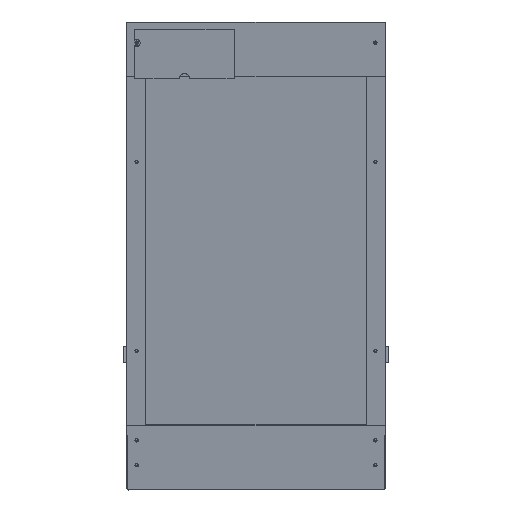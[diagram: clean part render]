
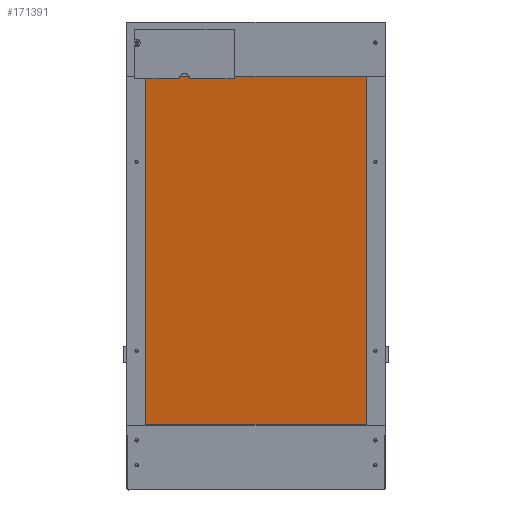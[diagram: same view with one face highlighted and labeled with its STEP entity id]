
A CAD part, top view. The second image highlights one B-rep face of the part: STEP entity #171391.
In plain terms, the highlighted planar face has unit normal (0, -0.174, 0.985).
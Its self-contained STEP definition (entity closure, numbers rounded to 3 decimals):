
#171222 = PLANE('',#171223);
#171223 = AXIS2_PLACEMENT_3D('',#171224,#171225,#171226);
#171224 = CARTESIAN_POINT('',(18.1,64.,86.285));
#171225 = DIRECTION('',(-0.,1.,0.));
#171226 = DIRECTION('',(0.,0.,-1.));
#171250 = PLANE('',#171251);
#171251 = AXIS2_PLACEMENT_3D('',#171252,#171253,#171254);
#171252 = CARTESIAN_POINT('',(241.9,240.675,111.437));
#171253 = DIRECTION('',(1.,0.,0.));
#171254 = DIRECTION('',(-0.,0.,1.));
#171278 = PLANE('',#171279);
#171279 = AXIS2_PLACEMENT_3D('',#171280,#171281,#171282);
#171280 = CARTESIAN_POINT('',(18.1,417.349,136.59));
#171281 = DIRECTION('',(0.,-1.,0.));
#171282 = DIRECTION('',(0.,0.,1.));
#171304 = PLANE('',#171305);
#171305 = AXIS2_PLACEMENT_3D('',#171306,#171307,#171308);
#171306 = CARTESIAN_POINT('',(18.1,240.675,111.437));
#171307 = DIRECTION('',(1.,0.,0.));
#171308 = DIRECTION('',(-0.,0.,1.));
#171321 = VERTEX_POINT('',#171322);
#171322 = CARTESIAN_POINT('',(241.9,417.349,148.59));
#171343 = EDGE_CURVE('',#171344,#171321,#171346,.T.);
#171344 = VERTEX_POINT('',#171345);
#171345 = CARTESIAN_POINT('',(18.1,417.349,148.59));
#171346 = SURFACE_CURVE('',#171347,(#171351,#171358),.PCURVE_S1.);
#171347 = LINE('',#171348,#171349);
#171348 = CARTESIAN_POINT('',(18.1,417.349,148.59));
#171349 = VECTOR('',#171350,1.);
#171350 = DIRECTION('',(1.,0.,0.));
#171351 = PCURVE('',#171278,#171352);
#171352 = DEFINITIONAL_REPRESENTATION('',(#171353),#171357);
#171353 = LINE('',#171354,#171355);
#171354 = CARTESIAN_POINT('',(12.,0.));
#171355 = VECTOR('',#171356,1.);
#171356 = DIRECTION('',(0.,-1.));
#171357 = ( GEOMETRIC_REPRESENTATION_CONTEXT(2) 
PARAMETRIC_REPRESENTATION_CONTEXT() REPRESENTATION_CONTEXT('2D SPACE',''
  ) );
#171358 = PCURVE('',#171359,#171364);
#171359 = PLANE('',#171360);
#171360 = AXIS2_PLACEMENT_3D('',#171361,#171362,#171363);
#171361 = CARTESIAN_POINT('',(18.1,417.349,148.59));
#171362 = DIRECTION('',(0.,0.174,-0.985));
#171363 = DIRECTION('',(0.,-0.985,-0.174));
#171364 = DEFINITIONAL_REPRESENTATION('',(#171365),#171369);
#171365 = LINE('',#171366,#171367);
#171366 = CARTESIAN_POINT('',(0.,0.));
#171367 = VECTOR('',#171368,1.);
#171368 = DIRECTION('',(0.,-1.));
#171369 = ( GEOMETRIC_REPRESENTATION_CONTEXT(2) 
PARAMETRIC_REPRESENTATION_CONTEXT() REPRESENTATION_CONTEXT('2D SPACE',''
  ) );
#171391 = ADVANCED_FACE('',(#171392),#171359,.F.);
#171392 = FACE_BOUND('',#171393,.F.);
#171393 = EDGE_LOOP('',(#171394,#171395,#171418,#171441));
#171394 = ORIENTED_EDGE('',*,*,#171343,.T.);
#171395 = ORIENTED_EDGE('',*,*,#171396,.T.);
#171396 = EDGE_CURVE('',#171321,#171397,#171399,.T.);
#171397 = VERTEX_POINT('',#171398);
#171398 = CARTESIAN_POINT('',(241.9,64.,86.285));
#171399 = SURFACE_CURVE('',#171400,(#171404,#171411),.PCURVE_S1.);
#171400 = LINE('',#171401,#171402);
#171401 = CARTESIAN_POINT('',(241.9,417.349,148.59));
#171402 = VECTOR('',#171403,1.);
#171403 = DIRECTION('',(0.,-0.985,-0.174));
#171404 = PCURVE('',#171359,#171405);
#171405 = DEFINITIONAL_REPRESENTATION('',(#171406),#171410);
#171406 = LINE('',#171407,#171408);
#171407 = CARTESIAN_POINT('',(0.,-223.8));
#171408 = VECTOR('',#171409,1.);
#171409 = DIRECTION('',(1.,0.));
#171410 = ( GEOMETRIC_REPRESENTATION_CONTEXT(2) 
PARAMETRIC_REPRESENTATION_CONTEXT() REPRESENTATION_CONTEXT('2D SPACE',''
  ) );
#171411 = PCURVE('',#171250,#171412);
#171412 = DEFINITIONAL_REPRESENTATION('',(#171413),#171417);
#171413 = LINE('',#171414,#171415);
#171414 = CARTESIAN_POINT('',(37.152,-176.675));
#171415 = VECTOR('',#171416,1.);
#171416 = DIRECTION('',(-0.174,0.985));
#171417 = ( GEOMETRIC_REPRESENTATION_CONTEXT(2) 
PARAMETRIC_REPRESENTATION_CONTEXT() REPRESENTATION_CONTEXT('2D SPACE',''
  ) );
#171418 = ORIENTED_EDGE('',*,*,#171419,.F.);
#171419 = EDGE_CURVE('',#171420,#171397,#171422,.T.);
#171420 = VERTEX_POINT('',#171421);
#171421 = CARTESIAN_POINT('',(18.1,64.,86.285));
#171422 = SURFACE_CURVE('',#171423,(#171427,#171434),.PCURVE_S1.);
#171423 = LINE('',#171424,#171425);
#171424 = CARTESIAN_POINT('',(18.1,64.,86.285));
#171425 = VECTOR('',#171426,1.);
#171426 = DIRECTION('',(1.,0.,0.));
#171427 = PCURVE('',#171359,#171428);
#171428 = DEFINITIONAL_REPRESENTATION('',(#171429),#171433);
#171429 = LINE('',#171430,#171431);
#171430 = CARTESIAN_POINT('',(358.8,0.));
#171431 = VECTOR('',#171432,1.);
#171432 = DIRECTION('',(0.,-1.));
#171433 = ( GEOMETRIC_REPRESENTATION_CONTEXT(2) 
PARAMETRIC_REPRESENTATION_CONTEXT() REPRESENTATION_CONTEXT('2D SPACE',''
  ) );
#171434 = PCURVE('',#171222,#171435);
#171435 = DEFINITIONAL_REPRESENTATION('',(#171436),#171440);
#171436 = LINE('',#171437,#171438);
#171437 = CARTESIAN_POINT('',(0.,0.));
#171438 = VECTOR('',#171439,1.);
#171439 = DIRECTION('',(0.,-1.));
#171440 = ( GEOMETRIC_REPRESENTATION_CONTEXT(2) 
PARAMETRIC_REPRESENTATION_CONTEXT() REPRESENTATION_CONTEXT('2D SPACE',''
  ) );
#171441 = ORIENTED_EDGE('',*,*,#171442,.F.);
#171442 = EDGE_CURVE('',#171344,#171420,#171443,.T.);
#171443 = SURFACE_CURVE('',#171444,(#171448,#171455),.PCURVE_S1.);
#171444 = LINE('',#171445,#171446);
#171445 = CARTESIAN_POINT('',(18.1,417.349,148.59));
#171446 = VECTOR('',#171447,1.);
#171447 = DIRECTION('',(0.,-0.985,-0.174));
#171448 = PCURVE('',#171359,#171449);
#171449 = DEFINITIONAL_REPRESENTATION('',(#171450),#171454);
#171450 = LINE('',#171451,#171452);
#171451 = CARTESIAN_POINT('',(0.,0.));
#171452 = VECTOR('',#171453,1.);
#171453 = DIRECTION('',(1.,0.));
#171454 = ( GEOMETRIC_REPRESENTATION_CONTEXT(2) 
PARAMETRIC_REPRESENTATION_CONTEXT() REPRESENTATION_CONTEXT('2D SPACE',''
  ) );
#171455 = PCURVE('',#171304,#171456);
#171456 = DEFINITIONAL_REPRESENTATION('',(#171457),#171461);
#171457 = LINE('',#171458,#171459);
#171458 = CARTESIAN_POINT('',(37.152,-176.675));
#171459 = VECTOR('',#171460,1.);
#171460 = DIRECTION('',(-0.174,0.985));
#171461 = ( GEOMETRIC_REPRESENTATION_CONTEXT(2) 
PARAMETRIC_REPRESENTATION_CONTEXT() REPRESENTATION_CONTEXT('2D SPACE',''
  ) );
